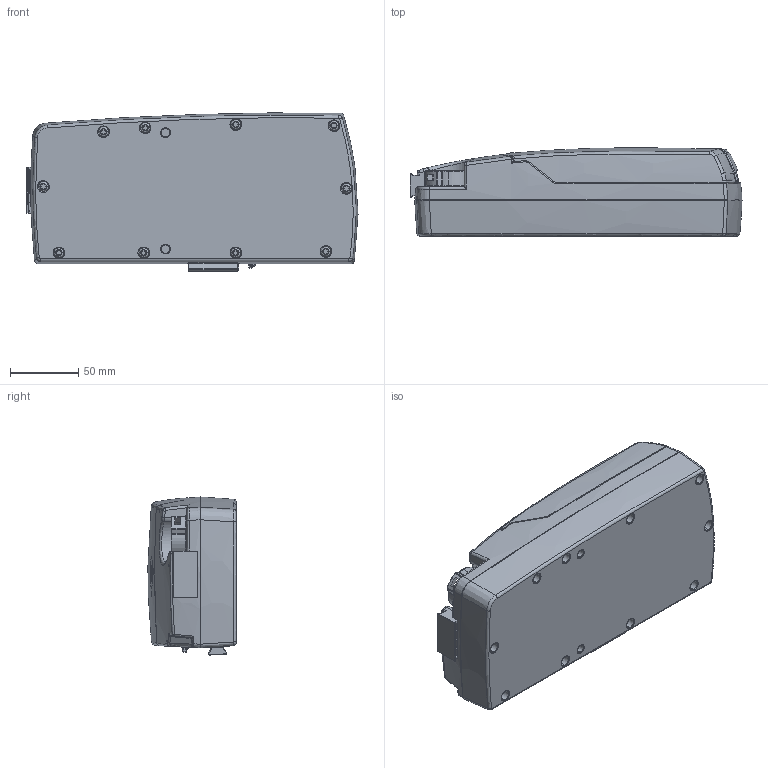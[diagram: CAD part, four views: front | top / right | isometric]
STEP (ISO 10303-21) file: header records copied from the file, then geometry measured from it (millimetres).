
FILE_DESCRIPTION (( 'STEP AP203' ), '1' );
FILE_NAME ('TC21.STEP', '2017-05-18T05:55:41', ( '' ), ( '' ), 'SwSTEP 2.0', 'SolidWorks 2015', '' );
FILE_SCHEMA (( 'CONFIG_CONTROL_DESIGN' ));
Length unit declared in the file: millimetre
Products named in the file (1): TC21
Bounding box: 242.53 x 64.43 x 115.49 mm (x, y, z)
Volume: 1440017.7 mm3; surface area: 102319.7 mm2
Topology: 1 solids, 1 shells, 1169 faces, 3112 edges, 1968 vertices
Faces by surface type: plane 451, cylinder 371, bspline 334, cone 13
Entity records: 49524 total; most frequent: CARTESIAN_POINT 22995, ORIENTED_EDGE 6202, DIRECTION 4740, EDGE_CURVE 3101, VERTEX_POINT 1968, AXIS2_PLACEMENT_3D 1717, VECTOR 1306, LINE 1306
